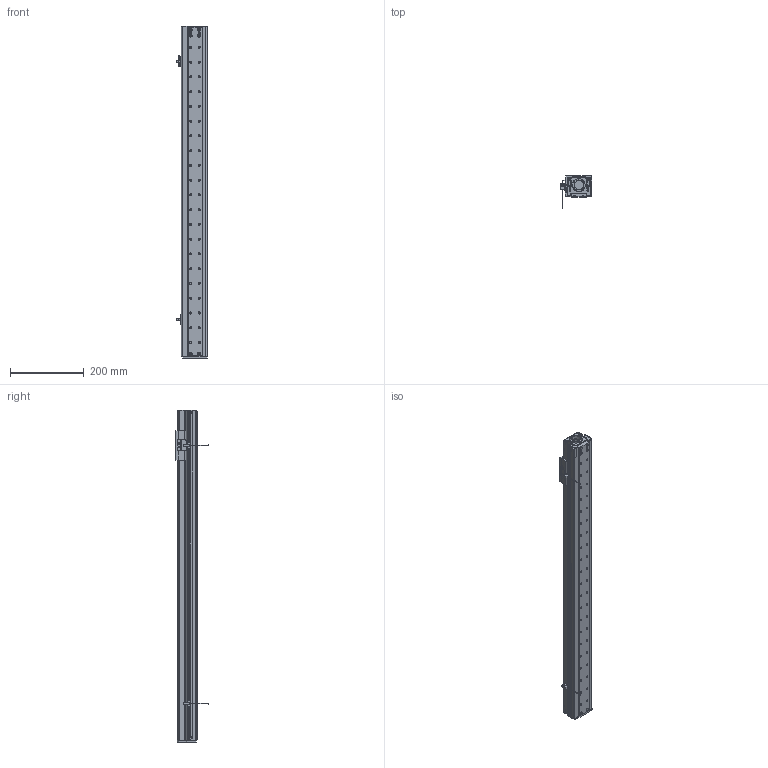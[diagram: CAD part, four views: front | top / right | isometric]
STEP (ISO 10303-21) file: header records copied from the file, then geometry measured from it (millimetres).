
FILE_DESCRIPTION (( 'STEP AP203' ), '1' );
FILE_NAME ('CTHM6-S700.STEP', '2019-12-18T01:55:28', ( '微软用户' ), ( '微软中国' ), 'SwSTEP 2.0', 'SolidWorks 2017', '' );
FILE_SCHEMA (( 'CONFIG_CONTROL_DESIGN' ));
Length unit declared in the file: millimetre
Products named in the file (17): M4-L10囀鞠褒蹟佪; LMW15AA; 侧挡板2(带磁条修改厚度); 固定侧轴承座(自制轴承座); M3-L6半圆头内六角螺丝; 羲壽え; M3-L6囀鞠褒蹟佪; 支持侧轴承座(带磁条); EE-SX672-BR; 遣喳蝶15x12x8; 滅袉蝶; MG60裔啣; CTHM6-S700; 耜結啣(湍羞); LMW15奻窅; DG60傷裔(祥結傷裔); 蟀諉釱(裔啣党蜊)
Assembly tree (29 placements, depth 2):
  CTHM6-S700
    LMW15奻窅
    蟀諉釱(裔啣党蜊)
    LMW15AA
    固定侧轴承座(自制轴承座)
    羲壽え
    支持侧轴承座(带磁条)
    遣喳蝶15x12x8  x2
    MG60裔啣
    耜結啣(湍羞)
    DG60傷裔(祥結傷裔)
    M4-L10囀鞠褒蹟佪  x2
    侧挡板2(带磁条修改厚度)
    M3-L6半圆头内六角螺丝  x8
    M3-L6囀鞠褒蹟佪  x4
    EE-SX672-BR  x2
    滅袉蝶
Bounding box: 86.7 x 87.8 x 900 mm (x, y, z)
Volume: 888440.3 mm3; surface area: 618026.7 mm2
Topology: 33 solids, 33 shells, 2039 faces, 5202 edges, 3216 vertices
Faces by surface type: plane 802, cylinder 745, cone 378, torus 88, bspline 26
Entity records: 55848 total; most frequent: CARTESIAN_POINT 11537, DIRECTION 9170, ORIENTED_EDGE 8620, EDGE_CURVE 4310, AXIS2_PLACEMENT_3D 3450, VERTEX_POINT 2717, LINE 2270, VECTOR 2270
